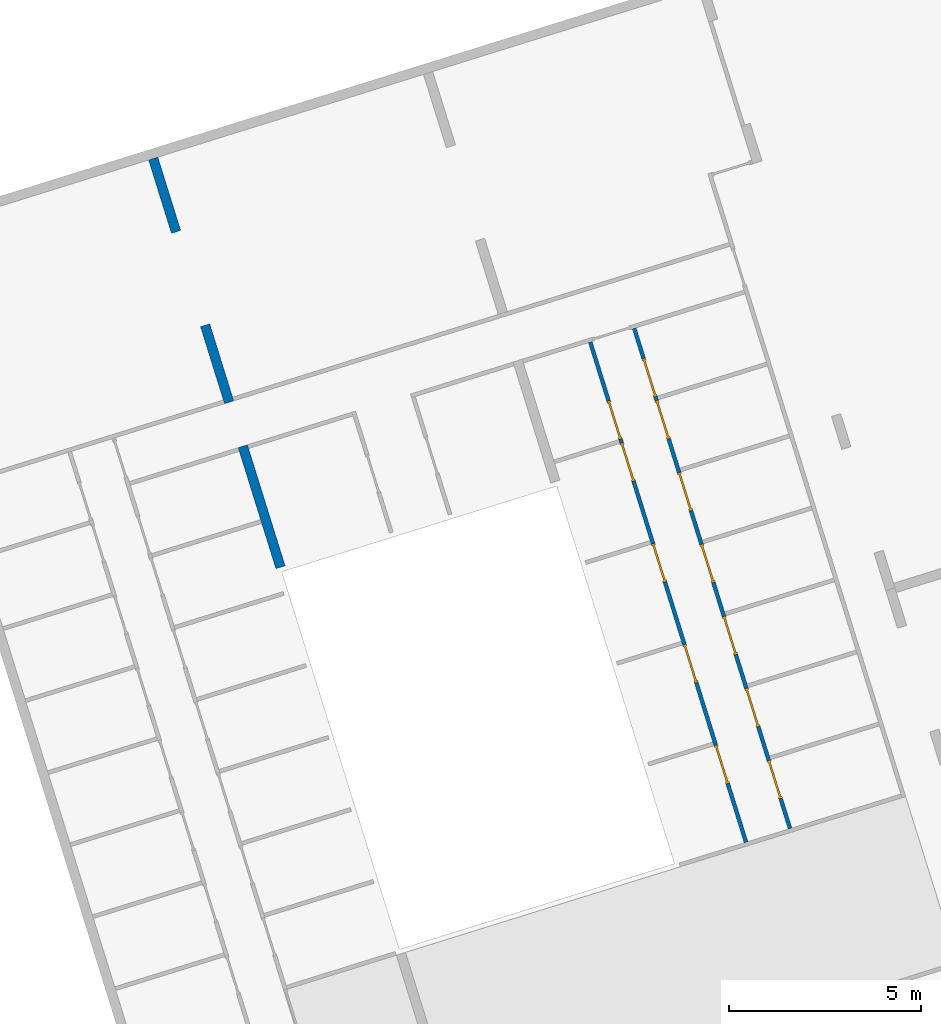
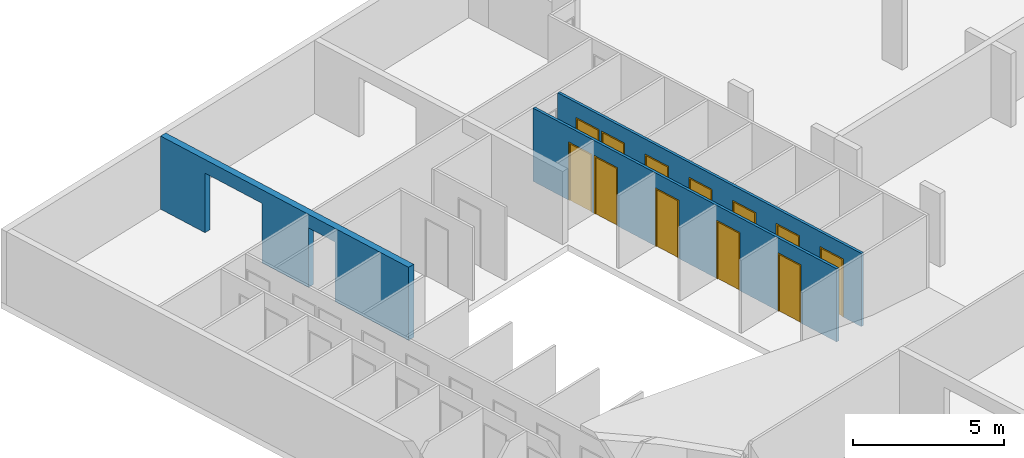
# One storey, part 6 of 7: 12 doors, 3 walls, 14 openings.
"""IFC4 building model written with IfcOpenShell, lengths in metres."""

from ifc_helpers import new_model, entity, si_unit, converted_unit, direction, frame, origin, place, context, subcontext, project, spatial, indexed_curve, outline, extrude, polygons, source, transform, mapped, material, constituent, constituent_set, type_object, type_shapes, element, fill, save


model = new_model("IFC4")

# Units and contexts
model_context = context("Model", 3, precision=1e-05, world=origin(), true_north=direction((6.12323399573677e-17, 1.0)))
body_context = subcontext(model_context, "Body", "Model", "MODEL_VIEW")
ifc_project = project(units=[si_unit("LENGTHUNIT", "METRE"), si_unit("AREAUNIT", "SQUARE_METRE"), si_unit("VOLUMEUNIT", "CUBIC_METRE"), converted_unit("PLANEANGLEUNIT", "DEGREE", entity("IfcPlaneAngleMeasure", 0.0174532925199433), si_unit("PLANEANGLEUNIT", "RADIAN"), dimensions=[0, 0, 0, 0, 0, 0, 0])], contexts=[model_context])

# Site, building, storey
site_placement = place(None, frame((13.1347999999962, 11.9886000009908, 0.0), z_axis=(0.0, 0.0, 1.0), x_axis=(0.954770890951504, 0.297342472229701, 0.0)))
site = spatial("IfcSite", under=ifc_project, at=site_placement, Name="Schiehaven", CompositionType="ELEMENT")
building_placement = place(site_placement, origin())
building = spatial("IfcBuilding", under=site, at=building_placement, Name="VORM huis", CompositionType="ELEMENT")
storey_placement = place(building_placement, frame((0.0, 0.0, -3.2)))
storey = spatial("IfcBuildingStorey", under=building, at=storey_placement, Name="-1 kelder", CompositionType="ELEMENT", Elevation=-3.2)

# Wall, openings
ifc_material_1 = material(Name="beton_gewapend_ihw", Category="Miscellaneous")
wall_type_1 = type_object("IfcWallType", Name="Basic Wall:28_WA_skelet_wand 250mm_gen", PredefinedType="STANDARD")
wall_1_placement = place(storey_placement, frame((12.5000000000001, 22.325, 0.0), z_axis=(0.0, 0.0, 1.0), x_axis=(0.0, 1.0, 0.0)))
wall_1 = element("IfcWall", 1, at=wall_1_placement, inside=storey, type_object=wall_type_1, material=ifc_material_1, Name="Constructieve wand", ObjectType="Wand", PredefinedType="NOTDEFINED", context=body_context, shape_type="Tessellation", body=[
    polygons([(11.1500000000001, -0.125000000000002, 0.0), (11.1500000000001, -0.125000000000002, 2.95), (0.0, -0.125000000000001, 2.95), (0.0, -0.125000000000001, 0.0), (3.29999999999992, -0.125000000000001, 0.0), (3.29999999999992, -0.125000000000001, 2.4), (4.49999999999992, -0.125000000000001, 2.4), (4.49999999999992, -0.125000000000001, 0.0), (6.59999999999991, -0.125000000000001, 0.0), (6.59999999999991, -0.125000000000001, 2.4), (9.15000000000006, -0.125000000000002, 2.4), (9.15000000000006, -0.125000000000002, 0.0), (11.1500000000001, 0.124999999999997, 2.95), (11.1500000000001, 0.124999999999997, 0.0), (9.15000000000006, 0.124999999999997, 0.0), (9.15000000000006, 0.124999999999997, 2.4), (6.59999999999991, 0.124999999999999, 2.4), (6.59999999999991, 0.124999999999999, 0.0), (4.49999999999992, 0.124999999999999, 0.0), (4.49999999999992, 0.124999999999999, 2.4), (3.29999999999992, 0.124999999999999, 2.4), (3.29999999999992, 0.124999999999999, 0.0), (1.33571428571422, 0.124999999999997, 0.0), (1.23571428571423, 0.124999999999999, 0.0), (0.0, 0.124999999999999, 0.0), (0.0, 0.124999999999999, 2.95), (1.23571428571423, 0.124999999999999, 2.95), (1.33571428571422, 0.124999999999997, 2.95)], [[[1, 2, 3, 4, 5, 6, 7, 8, 9, 10, 11, 12]], [[13, 14, 15, 16, 17, 18, 19, 20, 21, 22, 23, 24, 25, 26, 27, 28]], [[4, 25, 24, 23, 22, 5]], [[3, 2, 13, 28, 27, 26]], [[4, 3, 26, 25]], [[2, 1, 14, 13]], [[10, 17, 16, 11]], [[17, 10, 9, 18]], [[11, 16, 15, 12]], [[6, 21, 20, 7]], [[21, 6, 5, 22]], [[7, 20, 19, 8]], [[18, 9, 8, 19]], [[14, 1, 12, 15]]], closed=True),
])
opening_1_placement = place(wall_1_placement, origin())
element("IfcOpeningElement", 2, at=opening_1_placement, cuts=wall_1, Name="Constructieve wand", PredefinedType="OPENING", context=body_context, shape_type="SweptSolid", body=[
    extrude(outline(indexed_curve([(-1.2, -1.27500000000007), (1.2, -1.27500000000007), (1.2, 1.27500000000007), (-1.2, 1.27500000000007), (-1.2, -1.27500000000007)], self_intersect=False)), frame((7.87499999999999, -0.125000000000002, 1.2), z_axis=(0.0, 1.0, 0.0), x_axis=(0.0, 0.0, -1.0)), (0.0, 0.0, 1.0), 0.249999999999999),
])
opening_2_placement = place(wall_1_placement, origin())
element("IfcOpeningElement", 3, at=opening_2_placement, cuts=wall_1, Name="Constructieve wand", PredefinedType="OPENING", context=body_context, shape_type="SweptSolid", body=[
    extrude(outline(indexed_curve([(-1.2, -0.599999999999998), (1.2, -0.599999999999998), (1.2, 0.600000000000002), (-1.2, 0.600000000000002), (-1.2, -0.599999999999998)], self_intersect=False)), frame((3.89999999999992, -0.125000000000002, 1.2), z_axis=(0.0, 1.0, 0.0), x_axis=(0.0, 0.0, -1.0)), (0.0, 0.0, 1.0), 0.249999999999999),
])

# Wall, openings, doors
ifc_material_2 = material(Name="ntb_ntb_ntb", Category="Miscellaneous")
wall_type_2 = type_object("IfcWallType", Name="Basic Wall:22_WA_afbouw_binnenwand 100mm_gen", PredefinedType="STANDARD")
wall_2_placement = place(storey_placement, frame((21.9500000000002, 25.5249999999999, 0.0), z_axis=(0.0, 0.0, 1.0), x_axis=(0.0, -1.0, 0.0)))
wall_2 = element("IfcWall", 4, at=wall_2_placement, inside=storey, type_object=wall_type_2, material=ifc_material_2, Name="Binnenwand", ObjectType="Wand", PredefinedType="NOTDEFINED", context=body_context, shape_type="Tessellation", body=[
    polygons([(9.29999999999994, -0.0499999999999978, 0.0), (10.8999999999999, -0.049999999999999, 0.0), (10.9999999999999, -0.0499999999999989, 0.0), (10.9999999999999, -0.0499999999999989, 2.34999999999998), (12.0499999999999, -0.0499999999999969, 2.34999999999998), (12.0499999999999, -0.0499999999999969, 0.0), (13.6499999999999, -0.0499999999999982, 0.0), (13.6499999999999, -0.0499999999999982, 2.95), (10.9999999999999, -0.0499999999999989, 2.95), (10.8999999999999, -0.049999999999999, 2.95), (8.24999999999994, -0.0499999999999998, 2.95), (8.14999999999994, -0.0499999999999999, 2.95), (5.49999999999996, -0.0499999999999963, 2.95), (5.39999999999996, -0.0499999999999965, 2.95), (2.74999999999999, -0.0499999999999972, 2.95), (2.64999999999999, -0.0499999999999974, 2.95), (4.33146851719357e-15, -0.0499999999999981, 2.95), (0.0, -0.0499999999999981, 0.0), (1.59999999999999, -0.0499999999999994, 0.0), (1.59999999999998, -0.0499999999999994, 2.34999999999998), (2.64999999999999, -0.0499999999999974, 2.34999999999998), (2.64999999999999, -0.0499999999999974, 0.0), (2.74999999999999, -0.0499999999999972, 0.0), (2.74999999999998, -0.0499999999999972, 2.34999999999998), (3.79999999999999, -0.0499999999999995, 2.34999999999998), (3.79999999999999, -0.0499999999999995, 0.0), (5.39999999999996, -0.0499999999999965, 0.0), (5.49999999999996, -0.0499999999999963, 0.0), (5.49999999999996, -0.0499999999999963, 2.34999999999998), (6.54999999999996, -0.0499999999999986, 2.34999999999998), (6.54999999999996, -0.0499999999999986, 0.0), (8.14999999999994, -0.0499999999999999, 0.0), (8.24999999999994, -0.0499999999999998, 0.0), (8.24999999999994, -0.0499999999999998, 2.34999999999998), (9.29999999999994, -0.0499999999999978, 2.34999999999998), (10.9999999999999, 0.0500000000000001, 2.34999999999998), (10.9999999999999, 0.0500000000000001, 0.0), (9.29999999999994, 0.0500000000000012, 0.0), (9.29999999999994, 0.0500000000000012, 2.34999999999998), (8.24999999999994, 0.0499999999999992, 2.34999999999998), (8.24999999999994, 0.0499999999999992, 0.0), (6.54999999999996, 0.0500000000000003, 0.0), (6.54999999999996, 0.0500000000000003, 2.34999999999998), (5.49999999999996, 0.0500000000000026, 2.34999999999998), (5.49999999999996, 0.0500000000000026, 0.0), (3.79999999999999, 0.0499999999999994, 0.0), (3.79999999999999, 0.0499999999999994, 2.34999999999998), (2.74999999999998, 0.0500000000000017, 2.34999999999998), (2.74999999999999, 0.0500000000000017, 0.0), (2.64999999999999, 0.0500000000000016, 0.0), (2.64999999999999, 0.0500000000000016, 2.34999999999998), (1.59999999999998, 0.0499999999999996, 2.34999999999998), (1.59999999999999, 0.0499999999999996, 0.0), (4.33146851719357e-15, 0.0500000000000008, 0.0), (0.0, 0.0500000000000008, 2.95), (13.6499999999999, 0.0500000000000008, 2.95), (13.6499999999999, 0.0500000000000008, 0.0), (12.0499999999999, 0.050000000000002, 0.0), (12.0499999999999, 0.050000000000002, 2.34999999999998)], [[[1, 2, 3, 4, 5, 6, 7, 8, 9, 10, 11, 12, 13, 14, 15, 16, 17, 18, 19, 20, 21, 22, 23, 24, 25, 26, 27, 28, 29, 30, 31, 32, 33, 34, 35]], [[36, 37, 38, 39, 40, 41, 42, 43, 44, 45, 46, 47, 48, 49, 50, 51, 52, 53, 54, 55, 56, 57, 58, 59]], [[54, 53, 19, 18]], [[17, 16, 15, 14, 13, 12, 11, 10, 9, 8, 56, 55]], [[18, 17, 55, 54]], [[8, 7, 57, 56]], [[22, 21, 51, 50]], [[20, 19, 53, 52]], [[21, 20, 52, 51]], [[26, 25, 47, 46]], [[24, 23, 49, 48]], [[25, 24, 48, 47]], [[31, 30, 43, 42]], [[29, 28, 45, 44]], [[30, 29, 44, 43]], [[1, 35, 39, 38]], [[34, 33, 41, 40]], [[35, 34, 40, 39]], [[6, 5, 59, 58]], [[4, 3, 37, 36]], [[5, 4, 36, 59]], [[50, 49, 23, 22]], [[46, 45, 28, 27, 26]], [[42, 41, 33, 32, 31]], [[38, 37, 3, 2, 1]], [[58, 57, 7, 6]]], closed=True),
])
opening_3_placement = place(wall_2_placement, frame((1.59999999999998, -0.0500000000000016, 0.0)))
opening_3 = element("IfcOpeningElement", 5, at=opening_3_placement, cuts=wall_2, Name="Binnendeur", PredefinedType="OPENING", context=body_context, shape_type="SweptSolid", body=[
    extrude(outline(indexed_curve([(2.34999999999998, 1.05), (0.0, 1.05), (0.0, 0.0), (2.34999999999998, 0.0), (2.34999999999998, 1.05)], self_intersect=False)), frame((0.0, 0.0, 0.0), z_axis=(0.0, 1.0, 0.0), x_axis=(0.0, 0.0, 1.0)), (0.0, 0.0, 1.0), 0.1),
])
opening_4_placement = place(wall_2_placement, frame((2.74999999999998, -0.0500000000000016, 0.0)))
opening_4 = element("IfcOpeningElement", 6, at=opening_4_placement, cuts=wall_2, Name="Binnendeur", PredefinedType="OPENING", context=body_context, shape_type="SweptSolid", body=[
    extrude(outline(indexed_curve([(2.34999999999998, 1.05), (0.0, 1.05), (0.0, 0.0), (2.34999999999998, 0.0), (2.34999999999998, 1.05)], self_intersect=False)), frame((0.0, 0.0, 0.0), z_axis=(0.0, 1.0, 0.0), x_axis=(0.0, 0.0, 1.0)), (0.0, 0.0, 1.0), 0.1),
])
opening_5_placement = place(wall_2_placement, frame((5.49999999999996, -0.0500000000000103, 0.0)))
opening_5 = element("IfcOpeningElement", 7, at=opening_5_placement, cuts=wall_2, Name="Binnendeur", PredefinedType="OPENING", context=body_context, shape_type="SweptSolid", body=[
    extrude(outline(indexed_curve([(2.34999999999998, 1.05), (0.0, 1.05), (0.0, 0.0), (2.34999999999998, 0.0), (2.34999999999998, 1.05)], self_intersect=False)), frame((0.0, 0.0, 0.0), z_axis=(0.0, 1.0, 0.0), x_axis=(0.0, 0.0, 1.0)), (0.0, 0.0, 1.0), 0.1),
])
opening_6_placement = place(wall_2_placement, frame((8.24999999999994, -0.0500000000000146, 0.0)))
opening_6 = element("IfcOpeningElement", 8, at=opening_6_placement, cuts=wall_2, Name="Binnendeur", PredefinedType="OPENING", context=body_context, shape_type="SweptSolid", body=[
    extrude(outline(indexed_curve([(2.34999999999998, 1.05), (0.0, 1.05), (0.0, 1.08286712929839e-15), (2.34999999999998, 1.08286712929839e-15), (2.34999999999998, 1.05)], self_intersect=False)), frame((0.0, 0.0, 0.0), z_axis=(0.0, 1.0, 0.0), x_axis=(0.0, 0.0, 1.0)), (0.0, 0.0, 1.0), 0.1),
])
opening_7_placement = place(wall_2_placement, frame((11.0, -0.050000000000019, 0.0)))
opening_7 = element("IfcOpeningElement", 9, at=opening_7_placement, cuts=wall_2, Name="Binnendeur", PredefinedType="OPENING", context=body_context, shape_type="SweptSolid", body=[
    extrude(outline(indexed_curve([(2.34999999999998, 1.05), (0.0, 1.05), (0.0, 2.16573425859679e-15), (2.34999999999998, 2.16573425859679e-15), (2.34999999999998, 1.05)], self_intersect=False)), frame((0.0, 0.0, 0.0), z_axis=(0.0, 1.0, 0.0), x_axis=(0.0, 0.0, 1.0)), (0.0, 0.0, 1.0), 0.1),
])
ifc_material_3 = material(Name="PD_a_binnenwandopeningen", Category="Miscellaneous")
ifc_constituent_1 = constituent(ifc_material_3, Name="PD_a_binnenwandopeningen", Category="Miscellaneous")
ifc_material_4 = material(Name="metaal_aluminium_ntb", Category="Miscellaneous")
ifc_constituent_2 = constituent(ifc_material_4, Name="metaal_aluminium_ntb", Category="Miscellaneous")
ifc_constituent_set_1 = constituent_set(constituents=[ifc_constituent_1, ifc_constituent_2])
door_type = type_object("IfcDoorType", Name="32_DO_binnendeur enkel:binnendeur", OperationType="REVOLVING", PredefinedType="DOOR")
shared_shape_1 = source(origin(), body_context, "Body", "SweptSolid", [
    extrude(outline(indexed_curve([(-1.16249999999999, -0.525000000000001), (1.18749999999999, -0.525), (1.18749999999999, 0.525), (-1.16249999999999, 0.525), (-1.16249999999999, 0.475), (1.13749999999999, 0.475), (1.13749999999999, -0.475), (-1.16249999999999, -0.475), (-1.16249999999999, -0.525000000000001)], self_intersect=False)), frame((0.525000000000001, 0.0, 1.16249999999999), z_axis=(0.0, 1.0, 0.0), x_axis=(0.0, 0.0, 1.0)), (0.0, 0.0, 1.0), 0.1),
    extrude(outline(indexed_curve([(-0.025, -0.475), (0.025, -0.475), (0.025, 0.475), (-0.025, 0.475), (-0.025, -0.475)], self_intersect=False)), frame((0.525000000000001, 0.0499999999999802, 0.0), z_axis=(0.0, 0.0, 1.0), x_axis=(0.0, 1.0, 0.0)), (0.0, 0.0, 1.0), 2.29999999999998),
])
type_shapes(door_type, [shared_shape_1])
door_1_placement = place(opening_3_placement, origin())
door_1 = element("IfcDoor", 10, at=door_1_placement, inside=storey, type_object=door_type, material=ifc_constituent_set_1, Name="Binnendeur", ObjectType="Deur", OperationType="REVOLVING", OverallHeight=2.34999999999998, OverallWidth=1.05, PredefinedType="DOOR", context=body_context, shape_type="MappedRepresentation", body=[
    mapped(shared_shape_1, transform((0.0, 0.0, 0.0), scale=1.0)),
])
fill(opening_3, door_1)
ifc_constituent_3 = constituent(ifc_material_3, Name="PD_a_binnenwandopeningen", Category="Miscellaneous")
ifc_constituent_4 = constituent(ifc_material_4, Name="metaal_aluminium_ntb", Category="Miscellaneous")
ifc_constituent_set_2 = constituent_set(constituents=[ifc_constituent_3, ifc_constituent_4])
door_2_placement = place(opening_4_placement, origin())
door_2 = element("IfcDoor", 11, at=door_2_placement, inside=storey, type_object=door_type, material=ifc_constituent_set_2, Name="Binnendeur", ObjectType="Deur", OperationType="REVOLVING", OverallHeight=2.34999999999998, OverallWidth=1.05, PredefinedType="DOOR", context=body_context, shape_type="MappedRepresentation", body=[
    mapped(shared_shape_1, transform((0.0, 0.0, 0.0), scale=1.0)),
])
fill(opening_4, door_2)
ifc_constituent_5 = constituent(ifc_material_3, Name="PD_a_binnenwandopeningen", Category="Miscellaneous")
ifc_constituent_6 = constituent(ifc_material_4, Name="metaal_aluminium_ntb", Category="Miscellaneous")
ifc_constituent_set_3 = constituent_set(constituents=[ifc_constituent_5, ifc_constituent_6])
door_3_placement = place(opening_5_placement, origin())
door_3 = element("IfcDoor", 12, at=door_3_placement, inside=storey, type_object=door_type, material=ifc_constituent_set_3, Name="Binnendeur", ObjectType="Deur", OperationType="REVOLVING", OverallHeight=2.34999999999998, OverallWidth=1.05, PredefinedType="DOOR", context=body_context, shape_type="MappedRepresentation", body=[
    mapped(shared_shape_1, transform((0.0, 0.0, 0.0), scale=1.0)),
])
fill(opening_5, door_3)
ifc_constituent_7 = constituent(ifc_material_3, Name="PD_a_binnenwandopeningen", Category="Miscellaneous")
ifc_constituent_8 = constituent(ifc_material_4, Name="metaal_aluminium_ntb", Category="Miscellaneous")
ifc_constituent_set_4 = constituent_set(constituents=[ifc_constituent_7, ifc_constituent_8])
door_4_placement = place(opening_6_placement, origin())
door_4 = element("IfcDoor", 13, at=door_4_placement, inside=storey, type_object=door_type, material=ifc_constituent_set_4, Name="Binnendeur", ObjectType="Deur", OperationType="REVOLVING", OverallHeight=2.34999999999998, OverallWidth=1.05, PredefinedType="DOOR", context=body_context, shape_type="MappedRepresentation", body=[
    mapped(shared_shape_1, transform((0.0, 0.0, 0.0), scale=1.0)),
])
fill(opening_6, door_4)
ifc_constituent_9 = constituent(ifc_material_3, Name="PD_a_binnenwandopeningen", Category="Miscellaneous")
ifc_constituent_10 = constituent(ifc_material_4, Name="metaal_aluminium_ntb", Category="Miscellaneous")
ifc_constituent_set_5 = constituent_set(constituents=[ifc_constituent_9, ifc_constituent_10])
door_5_placement = place(opening_7_placement, origin())
door_5 = element("IfcDoor", 14, at=door_5_placement, inside=storey, type_object=door_type, material=ifc_constituent_set_5, Name="Binnendeur", ObjectType="Deur", OperationType="REVOLVING", OverallHeight=2.34999999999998, OverallWidth=1.05, PredefinedType="DOOR", context=body_context, shape_type="MappedRepresentation", body=[
    mapped(shared_shape_1, transform((0.0, 0.0, 0.0), scale=1.0)),
])
fill(opening_7, door_5)

wall_3_placement = place(storey_placement, frame((23.1500000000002, 25.5249999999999, 0.0), z_axis=(0.0, 0.0, 1.0), x_axis=(0.0, -1.0, 0.0)))
wall_3 = element("IfcWall", 15, at=wall_3_placement, inside=storey, type_object=wall_type_2, material=ifc_material_2, Name="Binnenwand", ObjectType="Wand", PredefinedType="NOTDEFINED", context=body_context, shape_type="Tessellation", body=[
    polygons([(10.8714285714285, -0.0499999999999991, 0.0), (11.7857142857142, -0.0499999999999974, 0.0), (11.7857142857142, -0.0499999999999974, 2.34999999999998), (12.8357142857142, -0.0499999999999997, 2.34999999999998), (12.8357142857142, -0.0499999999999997, 0.0), (13.6499999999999, -0.0499999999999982, 0.0), (13.6499999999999, -0.0499999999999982, 2.95), (0.0, -0.0499999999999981, 2.95), (0.0, -0.0499999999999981, 0.0), (0.814285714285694, -0.0499999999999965, 0.0), (0.814285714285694, -0.0499999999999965, 2.34999999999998), (1.8642857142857, -0.0499999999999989, 2.34999999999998), (1.8642857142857, -0.0499999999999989, 0.0), (1.96428571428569, -0.0499999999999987, 0.0), (1.96428571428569, -0.0499999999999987, 2.34999999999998), (3.0142857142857, -0.0499999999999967, 2.34999999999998), (3.0142857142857, -0.0499999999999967, 0.0), (3.92857142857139, -0.0499999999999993, 0.0), (3.92857142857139, -0.0499999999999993, 2.34999999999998), (4.97857142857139, -0.0499999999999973, 2.34999999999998), (4.97857142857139, -0.0499999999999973, 0.0), (5.89285714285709, -0.0499999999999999, 0.0), (5.89285714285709, -0.0499999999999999, 2.34999999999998), (6.94285714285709, -0.0499999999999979, 2.34999999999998), (6.94285714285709, -0.0499999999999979, 0.0), (7.85714285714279, -0.0499999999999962, 0.0), (7.85714285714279, -0.0499999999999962, 2.34999999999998), (8.90714285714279, -0.0499999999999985, 2.34999999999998), (8.90714285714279, -0.0499999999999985, 0.0), (9.82142857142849, -0.0499999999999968, 0.0), (9.82142857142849, -0.0499999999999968, 2.34999999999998), (10.8714285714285, -0.0499999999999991, 2.34999999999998), (11.7857142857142, 0.0500000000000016, 2.34999999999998), (11.7857142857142, 0.0500000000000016, 0.0), (11.6857142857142, 0.0500000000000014, 0.0), (10.8714285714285, 0.0499999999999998, 0.0), (10.8714285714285, 0.0499999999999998, 2.34999999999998), (9.82142857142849, 0.0500000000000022, 2.34999999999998), (9.82142857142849, 0.0500000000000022, 0.0), (9.72142857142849, 0.050000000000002, 0.0), (8.90714285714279, 0.0500000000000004, 0.0), (8.90714285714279, 0.0500000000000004, 2.34999999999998), (7.85714285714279, 0.0500000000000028, 2.34999999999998), (7.85714285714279, 0.0500000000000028, 0.0), (7.75714285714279, 0.0500000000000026, 0.0), (6.94285714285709, 0.050000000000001, 0.0), (6.94285714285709, 0.050000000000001, 2.34999999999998), (5.89285714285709, 0.049999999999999, 2.34999999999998), (5.89285714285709, 0.049999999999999, 0.0), (5.79285714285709, 0.0499999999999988, 0.0), (4.97857142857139, 0.0500000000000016, 0.0), (4.97857142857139, 0.0500000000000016, 2.34999999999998), (3.92857142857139, 0.0499999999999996, 2.34999999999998), (3.92857142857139, 0.0499999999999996, 0.0), (3.82857142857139, 0.0499999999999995, 0.0), (3.0142857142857, 0.0500000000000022, 0.0), (3.0142857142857, 0.0500000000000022, 2.34999999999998), (1.96428571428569, 0.0500000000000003, 2.34999999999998), (1.96428571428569, 0.0500000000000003, 0.0), (1.8642857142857, 0.0500000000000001, 0.0), (1.8642857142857, 0.0500000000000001, 2.34999999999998), (0.814285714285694, 0.0500000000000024, 2.34999999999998), (0.814285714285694, 0.0500000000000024, 0.0), (0.0, 0.0500000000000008, 0.0), (0.0, 0.0500000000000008, 2.95), (1.86428571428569, 0.0500000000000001, 2.95), (1.96428571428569, 0.0500000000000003, 2.95), (3.82857142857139, 0.0499999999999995, 2.95), (3.92857142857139, 0.0499999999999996, 2.95), (5.79285714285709, 0.0499999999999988, 2.95), (5.89285714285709, 0.049999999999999, 2.95), (7.75714285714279, 0.0500000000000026, 2.95), (7.85714285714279, 0.0500000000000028, 2.95), (9.72142857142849, 0.050000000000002, 2.95), (9.82142857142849, 0.0500000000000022, 2.95), (11.6857142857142, 0.0500000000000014, 2.95), (11.7857142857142, 0.0500000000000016, 2.95), (13.6499999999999, 0.0500000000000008, 2.95), (13.6499999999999, 0.0500000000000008, 0.0), (12.8357142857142, 0.0499999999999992, 0.0), (12.8357142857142, 0.0499999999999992, 2.34999999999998)], [[[1, 2, 3, 4, 5, 6, 7, 8, 9, 10, 11, 12, 13, 14, 15, 16, 17, 18, 19, 20, 21, 22, 23, 24, 25, 26, 27, 28, 29, 30, 31, 32]], [[33, 34, 35, 36, 37, 38, 39, 40, 41, 42, 43, 44, 45, 46, 47, 48, 49, 50, 51, 52, 53, 54, 55, 56, 57, 58, 59, 60, 61, 62, 63, 64, 65, 66, 67, 68, 69, 70, 71, 72, 73, 74, 75, 76, 77, 78, 79, 80, 81]], [[64, 63, 10, 9]], [[8, 7, 78, 77, 76, 75, 74, 73, 72, 71, 70, 69, 68, 67, 66, 65]], [[9, 8, 65, 64]], [[7, 6, 79, 78]], [[5, 4, 81, 80]], [[3, 2, 34, 33]], [[4, 3, 33, 81]], [[1, 32, 37, 36]], [[31, 30, 39, 38]], [[32, 31, 38, 37]], [[29, 28, 42, 41]], [[27, 26, 44, 43]], [[28, 27, 43, 42]], [[25, 24, 47, 46]], [[23, 22, 49, 48]], [[24, 23, 48, 47]], [[21, 20, 52, 51]], [[19, 18, 54, 53]], [[20, 19, 53, 52]], [[17, 16, 57, 56]], [[15, 14, 59, 58]], [[16, 15, 58, 57]], [[13, 12, 61, 60]], [[11, 10, 63, 62]], [[12, 11, 62, 61]], [[60, 59, 14, 13]], [[56, 55, 54, 18, 17]], [[51, 50, 49, 22, 21]], [[46, 45, 44, 26, 25]], [[41, 40, 39, 30, 29]], [[36, 35, 34, 2, 1]], [[80, 79, 6, 5]]], closed=True),
])
opening_8_placement = place(wall_3_placement, frame((1.8642857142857, 0.0499999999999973, 0.0)))
opening_8 = element("IfcOpeningElement", 16, at=opening_8_placement, cuts=wall_3, Name="Binnendeur", PredefinedType="OPENING", context=body_context, shape_type="SweptSolid", body=[
    extrude(outline(indexed_curve([(2.34999999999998, 0.0), (2.34999999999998, 1.05), (0.0, 1.05), (0.0, 0.0), (2.34999999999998, 0.0)], self_intersect=False)), frame((0.0, 0.0, 0.0), z_axis=(0.0, -1.0, 0.0), x_axis=(0.0, 0.0, 1.0)), (0.0, 0.0, 1.0), 0.1),
])
opening_9_placement = place(wall_3_placement, frame((3.0142857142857, 0.0499999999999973, 0.0)))
opening_9 = element("IfcOpeningElement", 17, at=opening_9_placement, cuts=wall_3, Name="Binnendeur", PredefinedType="OPENING", context=body_context, shape_type="SweptSolid", body=[
    extrude(outline(indexed_curve([(2.34999999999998, 0.0), (2.34999999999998, 1.05), (0.0, 1.05), (0.0, 0.0), (2.34999999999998, 0.0)], self_intersect=False)), frame((0.0, 0.0, 0.0), z_axis=(0.0, -1.0, 0.0), x_axis=(0.0, 0.0, 1.0)), (0.0, 0.0, 1.0), 0.1),
])
opening_10_placement = place(wall_3_placement, frame((4.97857142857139, 0.049999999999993, 0.0)))
opening_10 = element("IfcOpeningElement", 18, at=opening_10_placement, cuts=wall_3, Name="Binnendeur", PredefinedType="OPENING", context=body_context, shape_type="SweptSolid", body=[
    extrude(outline(indexed_curve([(2.34999999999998, 0.0), (2.34999999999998, 1.05), (0.0, 1.05), (0.0, 0.0), (2.34999999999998, 0.0)], self_intersect=False)), frame((0.0, 0.0, 0.0), z_axis=(0.0, -1.0, 0.0), x_axis=(0.0, 0.0, 1.0)), (0.0, 0.0, 1.0), 0.1),
])
opening_11_placement = place(wall_3_placement, frame((6.94285714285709, 0.0499999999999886, 0.0)))
opening_11 = element("IfcOpeningElement", 19, at=opening_11_placement, cuts=wall_3, Name="Binnendeur", PredefinedType="OPENING", context=body_context, shape_type="SweptSolid", body=[
    extrude(outline(indexed_curve([(2.34999999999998, 0.0), (2.34999999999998, 1.05), (0.0, 1.05), (0.0, 0.0), (2.34999999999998, 0.0)], self_intersect=False)), frame((0.0, 0.0, 0.0), z_axis=(0.0, -1.0, 0.0), x_axis=(0.0, 0.0, 1.0)), (0.0, 0.0, 1.0), 0.1),
])
opening_12_placement = place(wall_3_placement, frame((8.90714285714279, 0.0499999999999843, 0.0)))
opening_12 = element("IfcOpeningElement", 20, at=opening_12_placement, cuts=wall_3, Name="Binnendeur", PredefinedType="OPENING", context=body_context, shape_type="SweptSolid", body=[
    extrude(outline(indexed_curve([(2.34999999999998, 1.08286712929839e-15), (2.34999999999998, 1.05), (0.0, 1.05), (0.0, 1.08286712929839e-15), (2.34999999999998, 1.08286712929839e-15)], self_intersect=False)), frame((0.0, 0.0, 0.0), z_axis=(0.0, -1.0, 0.0), x_axis=(0.0, 0.0, 1.0)), (0.0, 0.0, 1.0), 0.1),
])
opening_13_placement = place(wall_3_placement, frame((10.8714285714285, 0.04999999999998, 0.0)))
opening_13 = element("IfcOpeningElement", 21, at=opening_13_placement, cuts=wall_3, Name="Binnendeur", PredefinedType="OPENING", context=body_context, shape_type="SweptSolid", body=[
    extrude(outline(indexed_curve([(2.34999999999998, 2.16573425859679e-15), (2.34999999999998, 1.05), (0.0, 1.05), (0.0, 2.16573425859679e-15), (2.34999999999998, 2.16573425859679e-15)], self_intersect=False)), frame((0.0, 0.0, 0.0), z_axis=(0.0, -1.0, 0.0), x_axis=(0.0, 0.0, 1.0)), (0.0, 0.0, 1.0), 0.1),
])
opening_14_placement = place(wall_3_placement, frame((12.8357142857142, 0.04999999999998, 0.0)))
opening_14 = element("IfcOpeningElement", 22, at=opening_14_placement, cuts=wall_3, Name="Binnendeur", PredefinedType="OPENING", context=body_context, shape_type="SweptSolid", body=[
    extrude(outline(indexed_curve([(2.34999999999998, 2.16573425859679e-15), (2.34999999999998, 1.05), (0.0, 1.05), (0.0, 2.16573425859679e-15), (2.34999999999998, 2.16573425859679e-15)], self_intersect=False)), frame((0.0, 0.0, 0.0), z_axis=(0.0, -1.0, 0.0), x_axis=(0.0, 0.0, 1.0)), (0.0, 0.0, 1.0), 0.1),
])
ifc_constituent_11 = constituent(ifc_material_3, Name="PD_a_binnenwandopeningen", Category="Miscellaneous")
ifc_constituent_12 = constituent(ifc_material_4, Name="metaal_aluminium_ntb", Category="Miscellaneous")
ifc_constituent_set_6 = constituent_set(constituents=[ifc_constituent_11, ifc_constituent_12])
shared_shape_2 = source(origin(), body_context, "Body", "SweptSolid", [
    extrude(outline(indexed_curve([(0.475, -1.16249999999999), (0.525, -1.16249999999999), (0.525, 1.18749999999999), (-0.525, 1.18749999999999), (-0.525, -1.16249999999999), (-0.475, -1.16249999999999), (-0.475, 1.13749999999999), (0.475, 1.13749999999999), (0.475, -1.16249999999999)], self_intersect=False)), frame((0.525000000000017, 0.100000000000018, 1.16249999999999), z_axis=(0.0, -1.0, 0.0), x_axis=(1.0, 0.0, 0.0)), (0.0, 0.0, 1.0), 0.1),
    extrude(outline(indexed_curve([(-0.475, -0.025), (0.475, -0.025), (0.475, 0.025), (-0.475, 0.025), (-0.475, -0.025)], self_intersect=False)), frame((0.525000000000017, 0.0499999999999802, 0.0)), (0.0, 0.0, 1.0), 2.29999999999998),
])
door_6_placement = place(opening_8_placement, frame((0.0, 0.0, 0.0), z_axis=(0.0, 0.0, 1.0), x_axis=(-1.0, 0.0, 0.0)))
door_6 = element("IfcDoor", 23, at=door_6_placement, inside=storey, type_object=door_type, material=ifc_constituent_set_6, Name="Binnendeur", ObjectType="Deur", OperationType="REVOLVING", OverallHeight=2.34999999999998, OverallWidth=1.05, PredefinedType="DOOR", context=body_context, shape_type="MappedRepresentation", body=[
    mapped(shared_shape_2, transform((0.0, 0.0, 0.0), scale=1.0)),
])
fill(opening_8, door_6)
ifc_constituent_13 = constituent(ifc_material_3, Name="PD_a_binnenwandopeningen", Category="Miscellaneous")
ifc_constituent_14 = constituent(ifc_material_4, Name="metaal_aluminium_ntb", Category="Miscellaneous")
ifc_constituent_set_7 = constituent_set(constituents=[ifc_constituent_13, ifc_constituent_14])
door_7_placement = place(opening_9_placement, frame((0.0, 0.0, 0.0), z_axis=(0.0, 0.0, 1.0), x_axis=(-1.0, 0.0, 0.0)))
door_7 = element("IfcDoor", 24, at=door_7_placement, inside=storey, type_object=door_type, material=ifc_constituent_set_7, Name="Binnendeur", ObjectType="Deur", OperationType="REVOLVING", OverallHeight=2.34999999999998, OverallWidth=1.05, PredefinedType="DOOR", context=body_context, shape_type="MappedRepresentation", body=[
    mapped(shared_shape_2, transform((0.0, 0.0, 0.0), scale=1.0)),
])
fill(opening_9, door_7)
ifc_constituent_15 = constituent(ifc_material_3, Name="PD_a_binnenwandopeningen", Category="Miscellaneous")
ifc_constituent_16 = constituent(ifc_material_4, Name="metaal_aluminium_ntb", Category="Miscellaneous")
ifc_constituent_set_8 = constituent_set(constituents=[ifc_constituent_15, ifc_constituent_16])
door_8_placement = place(opening_10_placement, frame((0.0, 0.0, 0.0), z_axis=(0.0, 0.0, 1.0), x_axis=(-1.0, 0.0, 0.0)))
door_8 = element("IfcDoor", 25, at=door_8_placement, inside=storey, type_object=door_type, material=ifc_constituent_set_8, Name="Binnendeur", ObjectType="Deur", OperationType="REVOLVING", OverallHeight=2.34999999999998, OverallWidth=1.05, PredefinedType="DOOR", context=body_context, shape_type="MappedRepresentation", body=[
    mapped(shared_shape_2, transform((0.0, 0.0, 0.0), scale=1.0)),
])
fill(opening_10, door_8)
ifc_constituent_17 = constituent(ifc_material_3, Name="PD_a_binnenwandopeningen", Category="Miscellaneous")
ifc_constituent_18 = constituent(ifc_material_4, Name="metaal_aluminium_ntb", Category="Miscellaneous")
ifc_constituent_set_9 = constituent_set(constituents=[ifc_constituent_17, ifc_constituent_18])
door_9_placement = place(opening_11_placement, frame((0.0, 0.0, 0.0), z_axis=(0.0, 0.0, 1.0), x_axis=(-1.0, 0.0, 0.0)))
door_9 = element("IfcDoor", 26, at=door_9_placement, inside=storey, type_object=door_type, material=ifc_constituent_set_9, Name="Binnendeur", ObjectType="Deur", OperationType="REVOLVING", OverallHeight=2.34999999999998, OverallWidth=1.05, PredefinedType="DOOR", context=body_context, shape_type="MappedRepresentation", body=[
    mapped(shared_shape_2, transform((0.0, 0.0, 0.0), scale=1.0)),
])
fill(opening_11, door_9)
ifc_constituent_19 = constituent(ifc_material_3, Name="PD_a_binnenwandopeningen", Category="Miscellaneous")
ifc_constituent_20 = constituent(ifc_material_4, Name="metaal_aluminium_ntb", Category="Miscellaneous")
ifc_constituent_set_10 = constituent_set(constituents=[ifc_constituent_19, ifc_constituent_20])
door_10_placement = place(opening_12_placement, frame((0.0, 0.0, 0.0), z_axis=(0.0, 0.0, 1.0), x_axis=(-1.0, 0.0, 0.0)))
door_10 = element("IfcDoor", 27, at=door_10_placement, inside=storey, type_object=door_type, material=ifc_constituent_set_10, Name="Binnendeur", ObjectType="Deur", OperationType="REVOLVING", OverallHeight=2.34999999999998, OverallWidth=1.05, PredefinedType="DOOR", context=body_context, shape_type="MappedRepresentation", body=[
    mapped(shared_shape_2, transform((0.0, 0.0, 0.0), scale=1.0)),
])
fill(opening_12, door_10)
ifc_constituent_21 = constituent(ifc_material_3, Name="PD_a_binnenwandopeningen", Category="Miscellaneous")
ifc_constituent_22 = constituent(ifc_material_4, Name="metaal_aluminium_ntb", Category="Miscellaneous")
ifc_constituent_set_11 = constituent_set(constituents=[ifc_constituent_21, ifc_constituent_22])
door_11_placement = place(opening_13_placement, frame((0.0, 0.0, 0.0), z_axis=(0.0, 0.0, 1.0), x_axis=(-1.0, 0.0, 0.0)))
door_11 = element("IfcDoor", 28, at=door_11_placement, inside=storey, type_object=door_type, material=ifc_constituent_set_11, Name="Binnendeur", ObjectType="Deur", OperationType="REVOLVING", OverallHeight=2.34999999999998, OverallWidth=1.05, PredefinedType="DOOR", context=body_context, shape_type="MappedRepresentation", body=[
    mapped(shared_shape_2, transform((0.0, 0.0, 0.0), scale=1.0)),
])
fill(opening_13, door_11)
ifc_constituent_23 = constituent(ifc_material_3, Name="PD_a_binnenwandopeningen", Category="Miscellaneous")
ifc_constituent_24 = constituent(ifc_material_4, Name="metaal_aluminium_ntb", Category="Miscellaneous")
ifc_constituent_set_12 = constituent_set(constituents=[ifc_constituent_23, ifc_constituent_24])
door_12_placement = place(opening_14_placement, frame((0.0, 0.0, 0.0), z_axis=(0.0, 0.0, 1.0), x_axis=(-1.0, 0.0, 0.0)))
door_12 = element("IfcDoor", 29, at=door_12_placement, inside=storey, type_object=door_type, material=ifc_constituent_set_12, Name="Binnendeur", ObjectType="Deur", OperationType="REVOLVING", OverallHeight=2.34999999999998, OverallWidth=1.05, PredefinedType="DOOR", context=body_context, shape_type="MappedRepresentation", body=[
    mapped(shared_shape_2, transform((0.0, 0.0, 0.0), scale=1.0)),
])
fill(opening_14, door_12)

save(model, "model.ifc")
